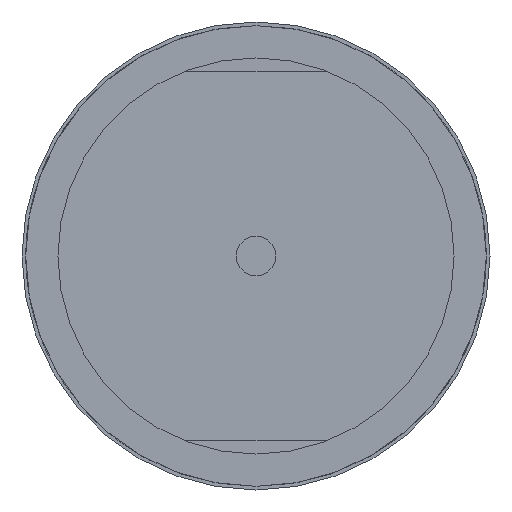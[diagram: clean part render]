
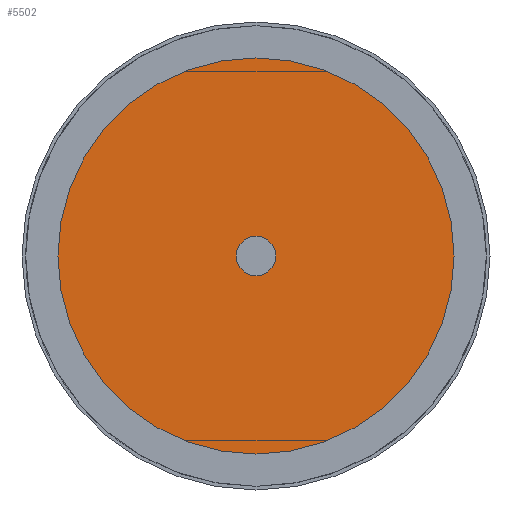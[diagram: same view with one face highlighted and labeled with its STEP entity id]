
A CAD part, left-side view. The second image highlights one B-rep face of the part: STEP entity #5502.
In plain terms, the highlighted planar face has unit normal (-1, 0, 0).
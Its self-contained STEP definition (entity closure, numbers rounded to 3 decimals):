
#208 = DIRECTION ( 'NONE',  ( -1., 0., 0. ) ) ;
#381 = EDGE_LOOP ( 'NONE', ( #3134, #2955 ) ) ;
#423 = CARTESIAN_POINT ( 'NONE',  ( -82., 0., -2.15 ) ) ;
#906 = CARTESIAN_POINT ( 'NONE',  ( -82., 0., -0.216 ) ) ;
#1010 = FACE_OUTER_BOUND ( 'NONE', #381, .T. ) ;
#1032 = ORIENTED_EDGE ( 'NONE', *, *, #1506, .F. ) ;
#1057 = DIRECTION ( 'NONE',  ( 0., 0., 1. ) ) ;
#1153 = AXIS2_PLACEMENT_3D ( 'NONE', #4684, #5140, #3808 ) ;
#1395 = AXIS2_PLACEMENT_3D ( 'NONE', #5218, #4368, #4795 ) ;
#1447 = CIRCLE ( 'NONE', #1153, 0.216 ) ;
#1485 = VERTEX_POINT ( 'NONE', #906 ) ;
#1506 = EDGE_CURVE ( 'NONE', #1485, #2390, #4558, .T. ) ;
#1603 = FACE_BOUND ( 'NONE', #3736, .T. ) ;
#1640 = CIRCLE ( 'NONE', #4331, 2.15 ) ;
#1916 = CARTESIAN_POINT ( 'NONE',  ( -82., 0., 0. ) ) ;
#2018 = VERTEX_POINT ( 'NONE', #5463 ) ;
#2071 = AXIS2_PLACEMENT_3D ( 'NONE', #2766, #2779, #3610 ) ;
#2390 = VERTEX_POINT ( 'NONE', #4173 ) ;
#2482 = DIRECTION ( 'NONE',  ( 0., 0., 1. ) ) ;
#2534 = EDGE_CURVE ( 'NONE', #4895, #2018, #4773, .T. ) ;
#2766 = CARTESIAN_POINT ( 'NONE',  ( -82., 0., 0. ) ) ;
#2779 = DIRECTION ( 'NONE',  ( -1., 0., 0. ) ) ;
#2955 = ORIENTED_EDGE ( 'NONE', *, *, #2534, .T. ) ;
#3043 = EDGE_CURVE ( 'NONE', #2018, #4895, #1640, .T. ) ;
#3134 = ORIENTED_EDGE ( 'NONE', *, *, #3043, .T. ) ;
#3610 = DIRECTION ( 'NONE',  ( 0., 0., 1. ) ) ;
#3684 = EDGE_CURVE ( 'NONE', #2390, #1485, #1447, .T. ) ;
#3736 = EDGE_LOOP ( 'NONE', ( #4412, #1032 ) ) ;
#3808 = DIRECTION ( 'NONE',  ( 0., 0., 1. ) ) ;
#4173 = CARTESIAN_POINT ( 'NONE',  ( -82., 0., 0.216 ) ) ;
#4225 = CARTESIAN_POINT ( 'NONE',  ( -82., 0., 0. ) ) ;
#4331 = AXIS2_PLACEMENT_3D ( 'NONE', #1916, #208, #1057 ) ;
#4368 = DIRECTION ( 'NONE',  ( -1., 0., 0. ) ) ;
#4412 = ORIENTED_EDGE ( 'NONE', *, *, #3684, .F. ) ;
#4460 = PLANE ( 'NONE',  #2071 ) ;
#4558 = CIRCLE ( 'NONE', #1395, 0.216 ) ;
#4684 = CARTESIAN_POINT ( 'NONE',  ( -82., 0., 0. ) ) ;
#4773 = CIRCLE ( 'NONE', #4841, 2.15 ) ;
#4795 = DIRECTION ( 'NONE',  ( 0., 0., 1. ) ) ;
#4841 = AXIS2_PLACEMENT_3D ( 'NONE', #4225, #5026, #2482 ) ;
#4895 = VERTEX_POINT ( 'NONE', #423 ) ;
#5026 = DIRECTION ( 'NONE',  ( -1., 0., 0. ) ) ;
#5140 = DIRECTION ( 'NONE',  ( -1., 0., 0. ) ) ;
#5218 = CARTESIAN_POINT ( 'NONE',  ( -82., 0., 0. ) ) ;
#5463 = CARTESIAN_POINT ( 'NONE',  ( -82., 0., 2.15 ) ) ;
#5502 = ADVANCED_FACE ( 'NONE', ( #1603, #1010 ), #4460, .T. ) ;
